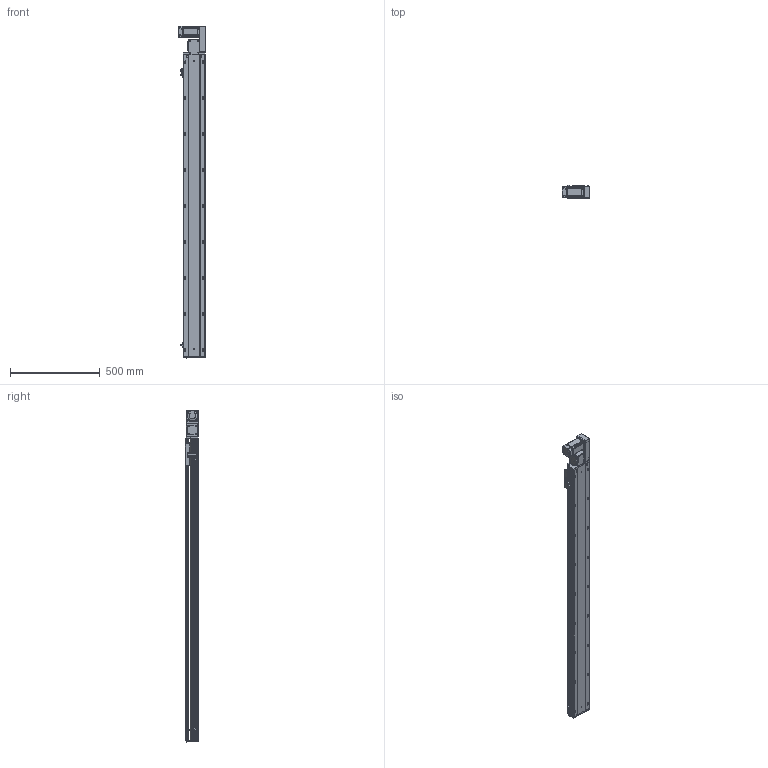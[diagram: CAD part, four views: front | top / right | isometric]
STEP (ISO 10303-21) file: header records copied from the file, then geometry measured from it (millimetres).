
FILE_DESCRIPTION (( 'STEP AP203' ), '1' );
FILE_NAME ('RY120-T-300-RK.SLDASM_1450.step', '2021-03-01T03:54:22', ( '盈信电脑' ), ( '东莞市道滘镇水果街19号' ), 'SwSTEP 2.0', 'SolidWorks 2012', '' );
FILE_SCHEMA (( 'CONFIG_CONTROL_DESIGN' ));
Length unit declared in the file: millimetre
Products named in the file (17): RY120-T-300-RK.SLDASM_1450; RY120-T主同步轮轴承压盖; RY120-T萇儂假蚾啣; RY120-T萇儂欶; RY120-T蹟翐M4; 15; RY120-T肮祭湍揤踡輸2; 滅袉蝶18-10; RY120-T翋肮祭謫裔啣; RY120-T翋肮祭盓傅釱; RY120外置感应片(140共用）; 覜茼ん672; RY120-T肮祭湍揤踡輸1; RY120-T-300-RK倰第奻裔啣_1450; RY120肮祭湍臏賑輸; RY120-T-300-RK倰第菁釱_1450; RY120綴裔啣
Assembly tree (22 placements, depth 2):
  RY120-T-300-RK.SLDASM_1450
    RY120-T-300-RK倰第菁釱_1450
    RY120-T-300-RK倰第奻裔啣_1450
    RY120肮祭湍臏賑輸
    RY120綴裔啣
    覜茼ん672  x3
    RY120外置感应片(140共用）
    RY120-T肮祭湍揤踡輸1
    RY120-T肮祭湍揤踡輸2
    RY120-T翋肮祭盓傅釱
    滅袉蝶18-10  x2
    RY120-T翋肮祭謫裔啣
    15
    RY120-T萇儂假蚾啣
    RY120-T蹟翐M4  x4
    RY120-T萇儂欶
    RY120-T主同步轮轴承压盖
Bounding box: 155.5 x 73 x 1847.5 mm (x, y, z)
Volume: 4602123.7 mm3; surface area: 1741066.4 mm2
Topology: 23 solids, 23 shells, 2964 faces, 8096 edges, 5174 vertices
Faces by surface type: plane 1436, cylinder 1154, cone 285, bspline 89
Entity records: 94813 total; most frequent: CARTESIAN_POINT 24436, ORIENTED_EDGE 14552, DIRECTION 13750, EDGE_CURVE 7276, VERTEX_POINT 4761, AXIS2_PLACEMENT_3D 4639, VECTOR 4472, LINE 4472
